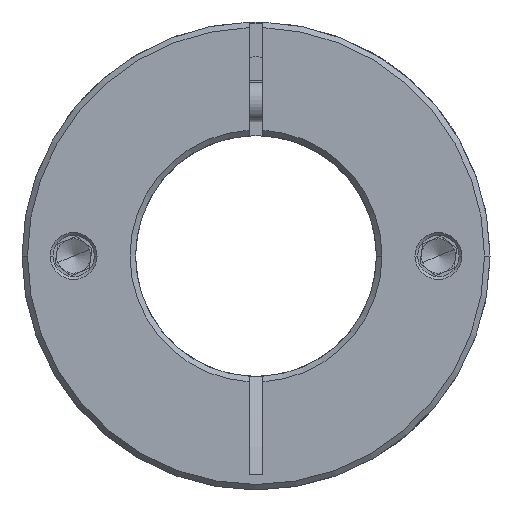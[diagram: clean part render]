
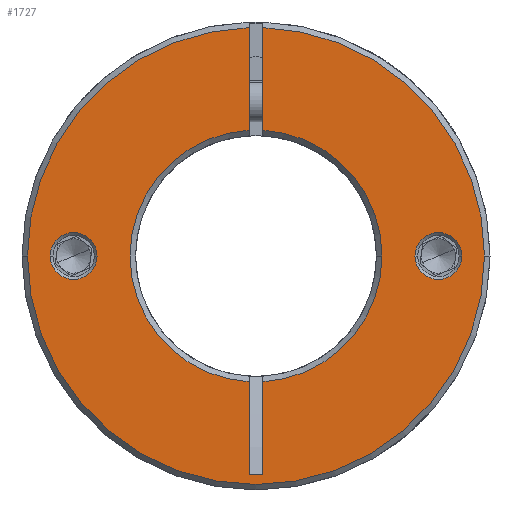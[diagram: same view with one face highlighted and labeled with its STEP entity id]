
A CAD part, front view. The second image highlights one B-rep face of the part: STEP entity #1727.
In plain terms, the highlighted planar face has unit normal (0, -1, 0).
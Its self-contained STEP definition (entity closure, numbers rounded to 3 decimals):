
#51 = DIRECTION ( 'NONE',  ( 1., 0., 0. ) ) ;
#119 = CIRCLE ( 'NONE', #2332, 33.2 ) ;
#142 = AXIS2_PLACEMENT_3D ( 'NONE', #6238, #12382, #51 ) ;
#148 = LINE ( 'NONE', #4911, #10770 ) ;
#175 = AXIS2_PLACEMENT_3D ( 'NONE', #2187, #10502, #11537 ) ;
#182 = CARTESIAN_POINT ( 'NONE',  ( -1.735, -47.045, 68. ) ) ;
#395 = CARTESIAN_POINT ( 'NONE',  ( -3.735, -47.045, 86.273 ) ) ;
#452 = AXIS2_PLACEMENT_3D ( 'NONE', #7666, #6657, #3578 ) ;
#460 = CARTESIAN_POINT ( 'NONE',  ( -2.735, -47.045, 68. ) ) ;
#485 = EDGE_CURVE ( 'NONE', #9601, #9952, #561, .T. ) ;
#505 = CARTESIAN_POINT ( 'NONE',  ( -2.735, -47.045, 68. ) ) ;
#561 = CIRCLE ( 'NONE', #10682, 18.3 ) ;
#645 = DIRECTION ( 'NONE',  ( 1., 0., 0. ) ) ;
#827 = EDGE_CURVE ( 'NONE', #6671, #6732, #12474, .T. ) ;
#906 = VERTEX_POINT ( 'NONE', #5928 ) ;
#964 = DIRECTION ( 'NONE',  ( 1., 0., 0. ) ) ;
#1034 = ORIENTED_EDGE ( 'NONE', *, *, #5226, .T. ) ;
#1141 = VERTEX_POINT ( 'NONE', #12555 ) ;
#1220 = DIRECTION ( 'NONE',  ( 0., 0., -1. ) ) ;
#1232 = EDGE_CURVE ( 'NONE', #1141, #8620, #7606, .T. ) ;
#1292 = VERTEX_POINT ( 'NONE', #3460 ) ;
#1526 = ORIENTED_EDGE ( 'NONE', *, *, #11084, .T. ) ;
#1727 = ADVANCED_FACE ( 'NONE', ( #7591, #2163, #12906 ), #6096, .T. ) ;
#2163 = FACE_BOUND ( 'NONE', #10680, .T. ) ;
#2187 = CARTESIAN_POINT ( 'NONE',  ( -2.735, -47.045, 68. ) ) ;
#2332 = AXIS2_PLACEMENT_3D ( 'NONE', #2629, #11887, #13067 ) ;
#2555 = CARTESIAN_POINT ( 'NONE',  ( 27.165, -47.045, 68. ) ) ;
#2558 = DIRECTION ( 'NONE',  ( 0., -1., 0. ) ) ;
#2580 = CIRCLE ( 'NONE', #142, 3.4 ) ;
#2629 = CARTESIAN_POINT ( 'NONE',  ( -2.735, -47.045, 68. ) ) ;
#2776 = VERTEX_POINT ( 'NONE', #2555 ) ;
#2822 = CARTESIAN_POINT ( 'NONE',  ( -3.735, -47.045, 101.185 ) ) ;
#2902 = CARTESIAN_POINT ( 'NONE',  ( -1.735, -47.045, 49.727 ) ) ;
#2986 = CARTESIAN_POINT ( 'NONE',  ( -29.235, -47.045, 68. ) ) ;
#3049 = VERTEX_POINT ( 'NONE', #2902 ) ;
#3271 = CARTESIAN_POINT ( 'NONE',  ( 15.565, -47.045, 68. ) ) ;
#3438 = ORIENTED_EDGE ( 'NONE', *, *, #6741, .T. ) ;
#3441 = DIRECTION ( 'NONE',  ( 0., 0., -1. ) ) ;
#3460 = CARTESIAN_POINT ( 'NONE',  ( 20.365, -47.045, 68. ) ) ;
#3511 = CIRCLE ( 'NONE', #12071, 3.4 ) ;
#3578 = DIRECTION ( 'NONE',  ( 1., 0., 0. ) ) ;
#3671 = CARTESIAN_POINT ( 'NONE',  ( -32.635, -47.045, 68. ) ) ;
#3713 = AXIS2_PLACEMENT_3D ( 'NONE', #5295, #11799, #6583 ) ;
#3871 = EDGE_CURVE ( 'NONE', #906, #7503, #2580, .T. ) ;
#3889 = EDGE_CURVE ( 'NONE', #9952, #3049, #8040, .T. ) ;
#4102 = DIRECTION ( 'NONE',  ( 0., -1., 0. ) ) ;
#4350 = EDGE_CURVE ( 'NONE', #5872, #9752, #7519, .T. ) ;
#4404 = CARTESIAN_POINT ( 'NONE',  ( -1.735, -47.045, 68. ) ) ;
#4511 = CARTESIAN_POINT ( 'NONE',  ( -1.735, -47.045, 36.279 ) ) ;
#4601 = EDGE_CURVE ( 'NONE', #1141, #4812, #9472, .T. ) ;
#4647 = ORIENTED_EDGE ( 'NONE', *, *, #10578, .T. ) ;
#4695 = DIRECTION ( 'NONE',  ( 1., 0., 0. ) ) ;
#4812 = VERTEX_POINT ( 'NONE', #9086 ) ;
#4911 = CARTESIAN_POINT ( 'NONE',  ( -3.735, -47.045, 36.279 ) ) ;
#5010 = EDGE_LOOP ( 'NONE', ( #4647, #3438 ) ) ;
#5226 = EDGE_CURVE ( 'NONE', #9752, #6671, #119, .T. ) ;
#5295 = CARTESIAN_POINT ( 'NONE',  ( 23.765, -47.045, 68. ) ) ;
#5442 = ORIENTED_EDGE ( 'NONE', *, *, #485, .T. ) ;
#5615 = ORIENTED_EDGE ( 'NONE', *, *, #8495, .T. ) ;
#5636 = VERTEX_POINT ( 'NONE', #4511 ) ;
#5756 = DIRECTION ( 'NONE',  ( 0., 1., 0. ) ) ;
#5872 = VERTEX_POINT ( 'NONE', #2822 ) ;
#5895 = VECTOR ( 'NONE', #3441, 1000. ) ;
#5928 = CARTESIAN_POINT ( 'NONE',  ( -25.835, -47.045, 68. ) ) ;
#6096 = PLANE ( 'NONE',  #12673 ) ;
#6238 = CARTESIAN_POINT ( 'NONE',  ( -29.235, -47.045, 68. ) ) ;
#6274 = DIRECTION ( 'NONE',  ( 1., 0., 0. ) ) ;
#6471 = DIRECTION ( 'NONE',  ( 0., 0., -1. ) ) ;
#6476 = CARTESIAN_POINT ( 'NONE',  ( -3.735, -47.045, 68. ) ) ;
#6583 = DIRECTION ( 'NONE',  ( 1., 0., 0. ) ) ;
#6657 = DIRECTION ( 'NONE',  ( 0., 1., 0. ) ) ;
#6671 = VERTEX_POINT ( 'NONE', #10619 ) ;
#6732 = VERTEX_POINT ( 'NONE', #6750 ) ;
#6741 = EDGE_CURVE ( 'NONE', #1292, #2776, #12333, .T. ) ;
#6750 = CARTESIAN_POINT ( 'NONE',  ( -1.735, -47.045, 101.185 ) ) ;
#6892 = ORIENTED_EDGE ( 'NONE', *, *, #4350, .T. ) ;
#7050 = LINE ( 'NONE', #6476, #9318 ) ;
#7138 = CARTESIAN_POINT ( 'NONE',  ( -35.935, -47.045, 68. ) ) ;
#7225 = CARTESIAN_POINT ( 'NONE',  ( -2.735, -47.045, 68. ) ) ;
#7280 = ORIENTED_EDGE ( 'NONE', *, *, #9694, .T. ) ;
#7326 = DIRECTION ( 'NONE',  ( 0., 0., -1. ) ) ;
#7503 = VERTEX_POINT ( 'NONE', #3671 ) ;
#7519 = CIRCLE ( 'NONE', #10332, 33.2 ) ;
#7591 = FACE_BOUND ( 'NONE', #5010, .T. ) ;
#7606 = CIRCLE ( 'NONE', #175, 18.3 ) ;
#7666 = CARTESIAN_POINT ( 'NONE',  ( 23.765, -47.045, 68. ) ) ;
#7733 = LINE ( 'NONE', #182, #12872 ) ;
#7749 = DIRECTION ( 'NONE',  ( 1., 0., 0. ) ) ;
#7975 = ORIENTED_EDGE ( 'NONE', *, *, #827, .T. ) ;
#7991 = ORIENTED_EDGE ( 'NONE', *, *, #9259, .F. ) ;
#8014 = LINE ( 'NONE', #4404, #5895 ) ;
#8040 = CIRCLE ( 'NONE', #8840, 18.3 ) ;
#8207 = ORIENTED_EDGE ( 'NONE', *, *, #1232, .T. ) ;
#8277 = DIRECTION ( 'NONE',  ( 1., 0., 0. ) ) ;
#8495 = EDGE_CURVE ( 'NONE', #6732, #9601, #7733, .T. ) ;
#8620 = VERTEX_POINT ( 'NONE', #395 ) ;
#8686 = CARTESIAN_POINT ( 'NONE',  ( -2.735, -47.045, 68. ) ) ;
#8840 = AXIS2_PLACEMENT_3D ( 'NONE', #7225, #9258, #8277 ) ;
#8954 = ORIENTED_EDGE ( 'NONE', *, *, #3889, .T. ) ;
#8996 = CARTESIAN_POINT ( 'NONE',  ( -1.735, -47.045, 86.273 ) ) ;
#9086 = CARTESIAN_POINT ( 'NONE',  ( -3.735, -47.045, 36.279 ) ) ;
#9258 = DIRECTION ( 'NONE',  ( 0., 1., 0. ) ) ;
#9259 = EDGE_CURVE ( 'NONE', #5872, #8620, #7050, .T. ) ;
#9318 = VECTOR ( 'NONE', #7326, 1000. ) ;
#9472 = LINE ( 'NONE', #12646, #12987 ) ;
#9601 = VERTEX_POINT ( 'NONE', #8996 ) ;
#9694 = EDGE_CURVE ( 'NONE', #5636, #4812, #148, .T. ) ;
#9752 = VERTEX_POINT ( 'NONE', #7138 ) ;
#9952 = VERTEX_POINT ( 'NONE', #3271 ) ;
#10016 = EDGE_CURVE ( 'NONE', #7503, #906, #3511, .T. ) ;
#10178 = DIRECTION ( 'NONE',  ( 0., 1., 0. ) ) ;
#10262 = CARTESIAN_POINT ( 'NONE',  ( -2.735, -47.045, 68. ) ) ;
#10332 = AXIS2_PLACEMENT_3D ( 'NONE', #505, #13002, #4695 ) ;
#10502 = DIRECTION ( 'NONE',  ( 0., 1., 0. ) ) ;
#10578 = EDGE_CURVE ( 'NONE', #2776, #1292, #12527, .T. ) ;
#10619 = CARTESIAN_POINT ( 'NONE',  ( 30.465, -47.045, 68. ) ) ;
#10680 = EDGE_LOOP ( 'NONE', ( #12309, #12429 ) ) ;
#10682 = AXIS2_PLACEMENT_3D ( 'NONE', #460, #5756, #645 ) ;
#10770 = VECTOR ( 'NONE', #12252, 1000. ) ;
#10778 = AXIS2_PLACEMENT_3D ( 'NONE', #8686, #2558, #7749 ) ;
#11084 = EDGE_CURVE ( 'NONE', #3049, #5636, #8014, .T. ) ;
#11391 = EDGE_LOOP ( 'NONE', ( #7991, #6892, #1034, #7975, #5615, #5442, #8954, #1526, #7280, #12593, #8207 ) ) ;
#11537 = DIRECTION ( 'NONE',  ( 1., 0., 0. ) ) ;
#11799 = DIRECTION ( 'NONE',  ( 0., 1., 0. ) ) ;
#11887 = DIRECTION ( 'NONE',  ( 0., -1., 0. ) ) ;
#12071 = AXIS2_PLACEMENT_3D ( 'NONE', #2986, #10178, #964 ) ;
#12252 = DIRECTION ( 'NONE',  ( -1., 0., 0. ) ) ;
#12309 = ORIENTED_EDGE ( 'NONE', *, *, #3871, .T. ) ;
#12333 = CIRCLE ( 'NONE', #452, 3.4 ) ;
#12382 = DIRECTION ( 'NONE',  ( 0., 1., 0. ) ) ;
#12429 = ORIENTED_EDGE ( 'NONE', *, *, #10016, .T. ) ;
#12474 = CIRCLE ( 'NONE', #10778, 33.2 ) ;
#12527 = CIRCLE ( 'NONE', #3713, 3.4 ) ;
#12555 = CARTESIAN_POINT ( 'NONE',  ( -3.735, -47.045, 49.727 ) ) ;
#12593 = ORIENTED_EDGE ( 'NONE', *, *, #4601, .F. ) ;
#12646 = CARTESIAN_POINT ( 'NONE',  ( -3.735, -47.045, 68. ) ) ;
#12673 = AXIS2_PLACEMENT_3D ( 'NONE', #10262, #4102, #6274 ) ;
#12872 = VECTOR ( 'NONE', #1220, 1000. ) ;
#12906 = FACE_OUTER_BOUND ( 'NONE', #11391, .T. ) ;
#12987 = VECTOR ( 'NONE', #6471, 1000. ) ;
#13002 = DIRECTION ( 'NONE',  ( 0., -1., 0. ) ) ;
#13067 = DIRECTION ( 'NONE',  ( 1., 0., 0. ) ) ;
